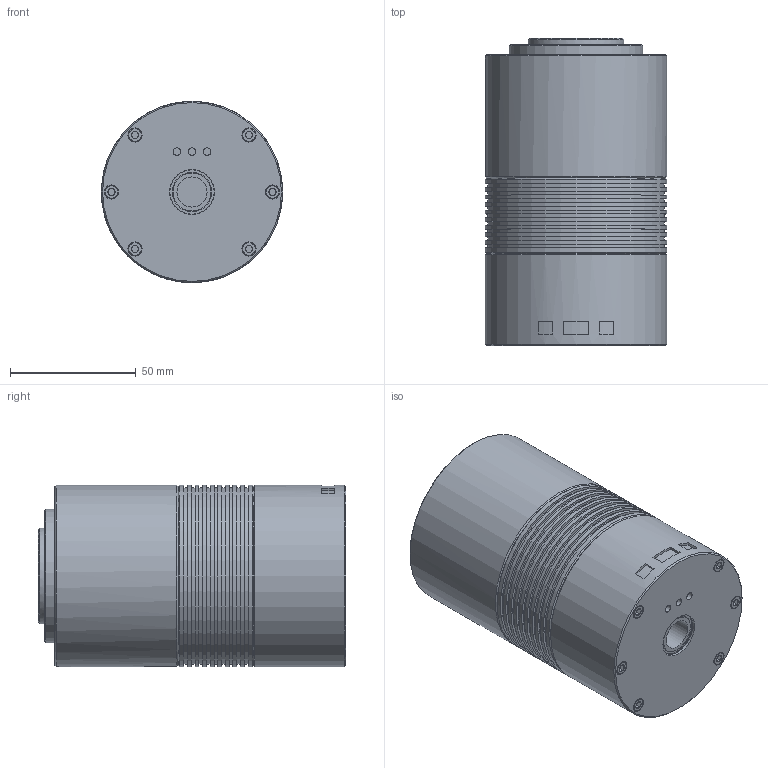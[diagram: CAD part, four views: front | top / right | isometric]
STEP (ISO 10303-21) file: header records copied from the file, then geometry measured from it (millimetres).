
FILE_DESCRIPTION(/* description */ ('','CAx-IF Rec.Pracs.---Representation and Presentation of Product Manufacturing Information (PMI)---4.0---2014-10-13'),/* implementation_level */ '2;1');
FILE_NAME(/* name */ 'Half Assembly Nawe-B2-HD20-RI50 Final.step',/* time_stamp */ '2024-11-25T16:27:30+05:30',/* author */ (''),/* organization */ (''),/* preprocessor_version */ 'ST-DEVELOPER v20',/* originating_system */ 'Autodesk Translation Framework v13.20.0.188',/* authorisation */ '');
FILE_SCHEMA (('AP242_MANAGED_MODEL_BASED_3D_ENGINEERING_MIM_LF { 1 0 10303 442 1 1 4 }'));
Length unit declared in the file: millimetre
Products named in the file (1): Half Assembly Nawe-B2-HD20-RI50
Bounding box: 72 x 122 x 72 mm (x, y, z)
Volume: 460752.9 mm3; surface area: 49917.6 mm2
Topology: 1 solids, 4 shells, 565 faces, 1338 edges, 856 vertices
Faces by surface type: cylinder 240, plane 192, cone 89, bspline 32, torus 12
Full cylindrical faces by diameter (mm): 2.529 x16, 3 x3, 3.086 x8, 3.332 x24, 4.109 x8, 5.5 x14, 5.6 x14, 12 x1, 13 x1, 15 x1, 17.8 x2, 21.3 x1, 24 x1, 35 x1, 38 x1, 38.21 x3, 43.2 x2, 44.4 x1, 47 x1, 53 x1, 70 x9, 72 x12
Entity records: 28690 total; most frequent: CARTESIAN_POINT 16480, ORIENTED_EDGE 2644, DIRECTION 2278, EDGE_CURVE 1322, AXIS2_PLACEMENT_3D 906, VERTEX_POINT 856, EDGE_LOOP 664, FACE_OUTER_BOUND 565
